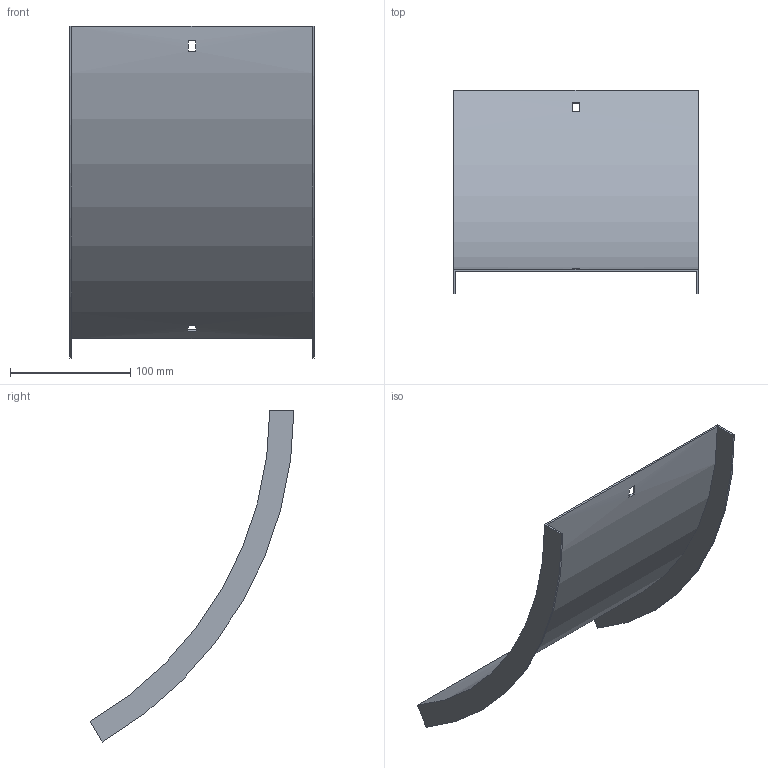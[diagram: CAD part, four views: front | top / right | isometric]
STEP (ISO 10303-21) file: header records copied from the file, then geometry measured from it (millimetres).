
FILE_DESCRIPTION (( 'STEP AP214' ), '1' );
FILE_NAME ('B2X40N3R200X.step', '2025-03-20T09:44:30', ( '' ), ( '' ), 'SwSTEP 2.0', 'SolidWorks 2023', '' );
FILE_SCHEMA (( 'AUTOMOTIVE_DESIGN' ));
Length unit declared in the file: millimetre
Products named in the file (1): B2X40N3R200X
Bounding box: 203 x 169.25 x 275.83 mm (x, y, z)
Volume: 113220 mm3; surface area: 152771.4 mm2
Topology: 1 solids, 1 shells, 18 faces, 48 edges, 32 vertices
Faces by surface type: plane 14, cylinder 4
Entity records: 599 total; most frequent: DIRECTION 102, CARTESIAN_POINT 99, ORIENTED_EDGE 96, EDGE_CURVE 48, AXIS2_PLACEMENT_3D 35, LINE 32, VERTEX_POINT 32, VECTOR 32
